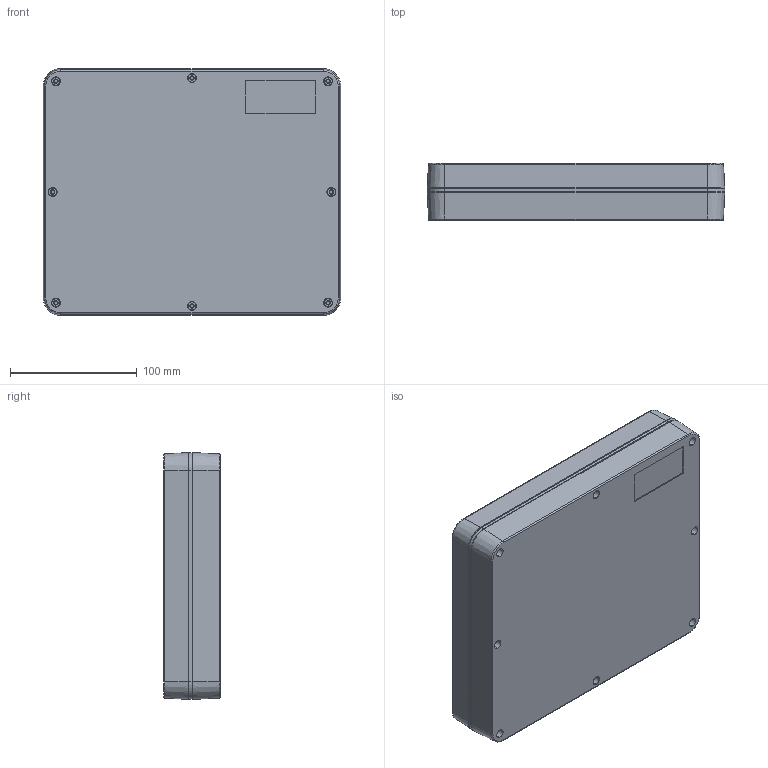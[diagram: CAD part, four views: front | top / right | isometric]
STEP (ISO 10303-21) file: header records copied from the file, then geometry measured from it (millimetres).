
FILE_DESCRIPTION (( 'STEP AP203' ), '1' );
FILE_NAME ('HH-2410-0-0.STEP', '2023-05-05T14:49:20', ( '' ), ( '' ), 'SwSTEP 2.0', 'SolidWorks 2021', '' );
FILE_SCHEMA (( 'CONFIG_CONTROL_DESIGN' ));
Length unit declared in the file: millimetre
Products named in the file (4): HH-2410-S; HH-2410-P-1; HH-2410-0-0; HH-2410-P-2
Assembly tree (3 placements, depth 2):
  HH-2410-0-0
    HH-2410-P-1
    HH-2410-P-2
    HH-2410-S
Bounding box: 235 x 45 x 195 mm (x, y, z)
Volume: 361994.9 mm3; surface area: 284165 mm2
Topology: 3 solids, 3 shells, 596 faces, 1487 edges, 986 vertices
Faces by surface type: plane 253, cylinder 177, cone 158, torus 8
Entity records: 18795 total; most frequent: CARTESIAN_POINT 3471, DIRECTION 3345, ORIENTED_EDGE 2974, EDGE_CURVE 1487, AXIS2_PLACEMENT_3D 1324, VERTEX_POINT 986, CIRCLE 722, EDGE_LOOP 719
